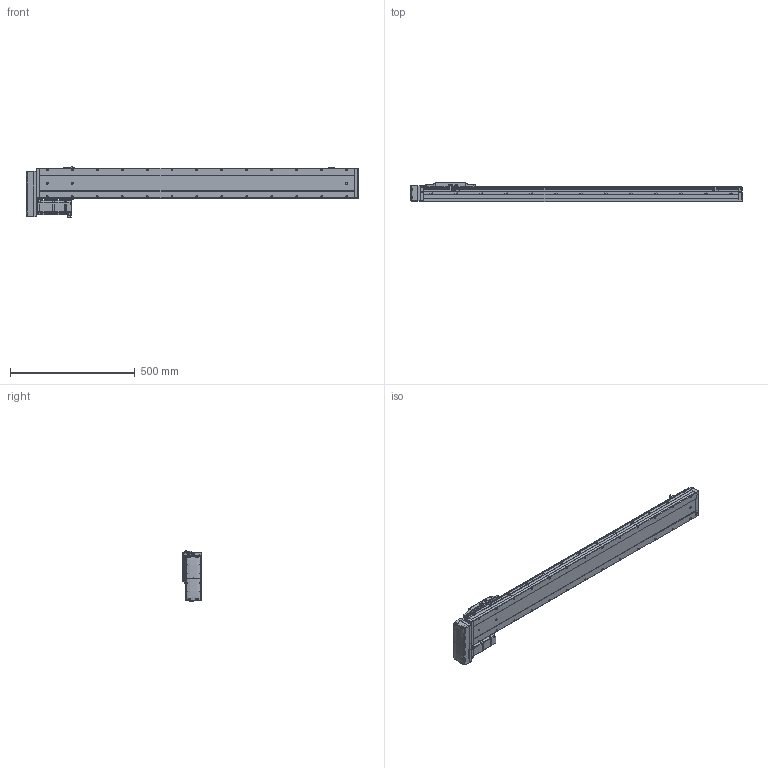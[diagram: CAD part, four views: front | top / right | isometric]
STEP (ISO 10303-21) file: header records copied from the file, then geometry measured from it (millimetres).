
FILE_DESCRIPTION (( 'STEP AP214' ), '1' );
FILE_NAME ('CTH12-L10-S1050-BR-C40（简）.STEP', '2023-02-04T06:59:07', ( '' ), ( '' ), 'SwSTEP 2.0', 'SolidWorks 2018', '' );
FILE_SCHEMA (( 'AUTOMOTIVE_DESIGN' ));
Length unit declared in the file: millimetre
Products named in the file (24): CTH12耜蚾裔; hex nuts, style 1-grades ab gb_GB_FASTENER_NUT_SNAB1 M3-N; AC60_Valor predeterminado; M5蹟隊; 内六角圆柱头螺钉M3-2; CTH12-L10-S1050-BR-C40（简）; 内六角圆柱头螺钉M3; PM-Y45; CTH12賑怢ㄗ潠ㄘ; CTH12賑怢郪磁; CTH12侧装连接板（标准）简; CTH12底座-L1261简（1050行程）; CTH嫖萇羲壽假蚾啣; CTH12; 内六角圆柱头螺钉M3-1; 蚐郲; CTH12覜茼え; 湮賑怢  裔赽-1(CTH12)賑怢; CTH12_body_3; CTH12-BL_body_4; CTH400W垫板（3个厚）; 嫖萇羲壽郪磁2; 嫖萇羲壽郪磁1; CTH400W假蚾啣
Assembly tree (44 placements, depth 4):
  CTH12-L10-S1050-BR-C40（简）
    CTH12底座-L1261简（1050行程）
    蚐郲  x2
    CTH12_body_3
    CTH12-BL_body_4
    CTH12侧装连接板（标准）简
    CTH12耜蚾裔
    CTH12賑怢郪磁
      CTH12
        湮賑怢  裔赽-1(CTH12)賑怢
        CTH12賑怢ㄗ潠ㄘ
    CTH12覜茼え
    嫖萇羲壽郪磁1  x2
      CTH嫖萇羲壽假蚾啣
      PM-Y45
      内六角圆柱头螺钉M3-2
      内六角圆柱头螺钉M3-1
      hex nuts, style 1-grades ab gb_GB_FASTENER_NUT_SNAB1 M3-N
    嫖萇羲壽郪磁2
      CTH嫖萇羲壽假蚾啣
      PM-Y45
      内六角圆柱头螺钉M3-1  x2
      内六角圆柱头螺钉M3-2  x2
      hex nuts, style 1-grades ab gb_GB_FASTENER_NUT_SNAB1 M3-N  x2
    CTH400W垫板（3个厚）
    AC60_Valor predeterminado
    内六角圆柱头螺钉M3  x6
    M5蹟隊  x4
    CTH400W假蚾啣
Bounding box: 1331.5 x 76 x 201.06 mm (x, y, z)
Volume: 9077140.5 mm3; surface area: 788583.4 mm2
Topology: 47 solids, 48 shells, 2975 faces, 7588 edges, 4831 vertices
Faces by surface type: plane 1599, cylinder 825, cone 391, bspline 108, torus 52
Entity records: 87421 total; most frequent: CARTESIAN_POINT 24294, ORIENTED_EDGE 12356, DIRECTION 12033, EDGE_CURVE 6178, AXIS2_PLACEMENT_3D 4088, VERTEX_POINT 3935, VECTOR 3857, LINE 3857
